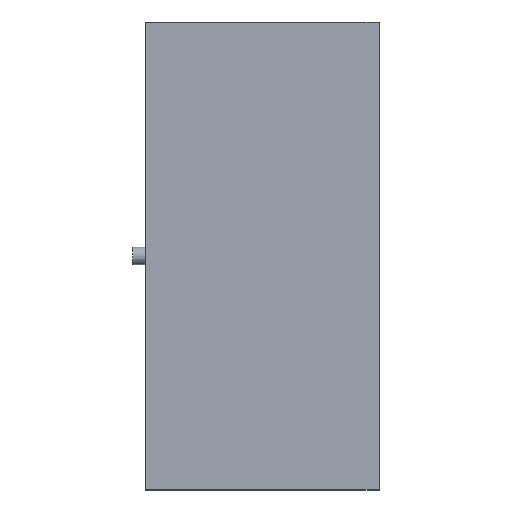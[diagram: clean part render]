
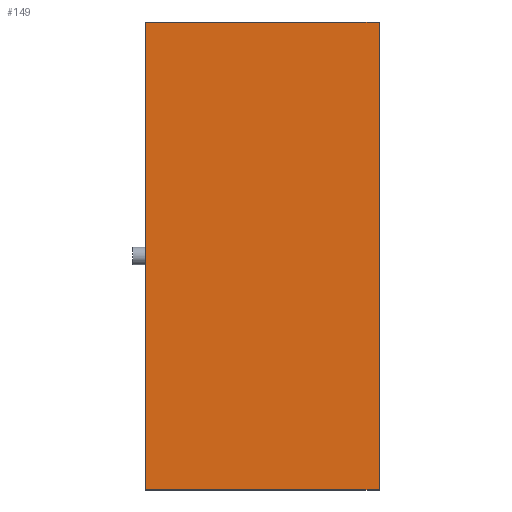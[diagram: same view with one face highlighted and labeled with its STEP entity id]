
A CAD part, top view. The second image highlights one B-rep face of the part: STEP entity #149.
In plain terms, the highlighted planar face has unit normal (0, 0, 1).
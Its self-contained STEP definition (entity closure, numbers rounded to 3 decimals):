
#34=DIRECTION('',(0.,-1.,0.));
#35=VECTOR('',#34,30.);
#36=CARTESIAN_POINT('',(-7.5,15.,1.));
#37=LINE('',#36,#35);
#38=DIRECTION('',(-1.,0.,0.));
#39=VECTOR('',#38,15.);
#40=CARTESIAN_POINT('',(7.5,15.,1.));
#41=LINE('',#40,#39);
#42=DIRECTION('',(0.,1.,0.));
#43=VECTOR('',#42,30.);
#44=CARTESIAN_POINT('',(7.5,-15.,1.));
#45=LINE('',#44,#43);
#46=DIRECTION('',(1.,0.,0.));
#47=VECTOR('',#46,15.);
#48=CARTESIAN_POINT('',(-7.5,-15.,1.));
#49=LINE('',#48,#47);
#58=CARTESIAN_POINT('',(-7.5,15.,1.));
#59=CARTESIAN_POINT('',(-7.5,-15.,1.));
#60=VERTEX_POINT('',#58);
#61=VERTEX_POINT('',#59);
#62=CARTESIAN_POINT('',(7.5,-15.,1.));
#63=VERTEX_POINT('',#62);
#64=CARTESIAN_POINT('',(7.5,15.,1.));
#65=VERTEX_POINT('',#64);
#138=CARTESIAN_POINT('',(0.,0.,1.));
#139=DIRECTION('',(0.,0.,1.));
#140=DIRECTION('',(1.,0.,0.));
#141=AXIS2_PLACEMENT_3D('',#138,#139,#140);
#142=PLANE('',#141);
#143=ORIENTED_EDGE('',*,*,#90,.F.);
#144=ORIENTED_EDGE('',*,*,#105,.F.);
#145=ORIENTED_EDGE('',*,*,#119,.F.);
#146=ORIENTED_EDGE('',*,*,#132,.F.);
#147=EDGE_LOOP('',(#143,#144,#145,#146));
#148=FACE_OUTER_BOUND('',#147,.F.);
#149=ADVANCED_FACE('',(#148),#142,.T.);
#90=EDGE_CURVE('',#60,#61,#37,.T.);
#105=EDGE_CURVE('',#65,#60,#41,.T.);
#119=EDGE_CURVE('',#63,#65,#45,.T.);
#132=EDGE_CURVE('',#61,#63,#49,.T.);
